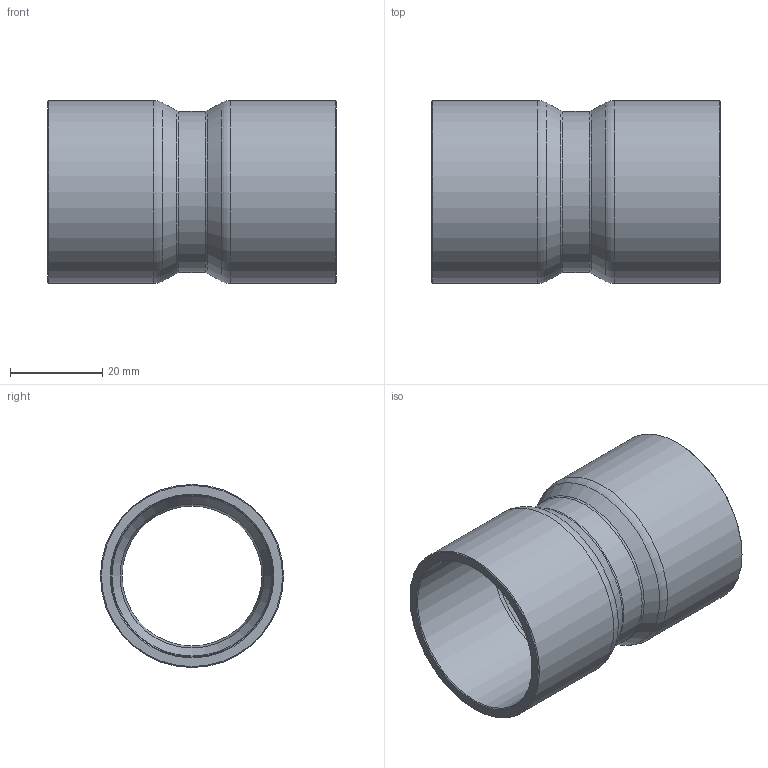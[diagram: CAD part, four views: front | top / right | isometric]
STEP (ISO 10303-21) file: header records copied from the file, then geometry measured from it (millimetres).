
FILE_DESCRIPTION((''),'2;1');
FILE_NAME('G:\SANHA-Ternat\Technik\Management\Bouwmaten + markeringen\z-maattekeningen 3D\29000s\29270138_3d.stp','2017-08-03T14:32:33',('vdvijverd'),(''),'Autodesk Inventor 2009','Autodesk Inventor 2009','');
FILE_SCHEMA(('AUTOMOTIVE_DESIGN { 1 0 10303 214 1 1 1 1 }'));
Length unit declared in the file: millimetre
Products named in the file (1): 29270138_3d
Bounding box: 62.5 x 39.7 x 39.7 mm (x, y, z)
Volume: 16784.2 mm3; surface area: 15099.5 mm2
Topology: 1 solids, 1 shells, 24 faces, 46 edges, 24 vertices
Faces by surface type: cone 8, cylinder 6, torus 4, bspline 4, plane 2
Full cylindrical faces by diameter (mm): 30.32 x1, 34.92 x1, 35.105 x2, 39.7 x2
Entity records: 674 total; most frequent: CARTESIAN_POINT 249, DIRECTION 90, ORIENTED_EDGE 48, EDGE_LOOP 48, AXIS2_PLACEMENT_3D 45, VERTEX_POINT 24, CIRCLE 24, EDGE_CURVE 24
